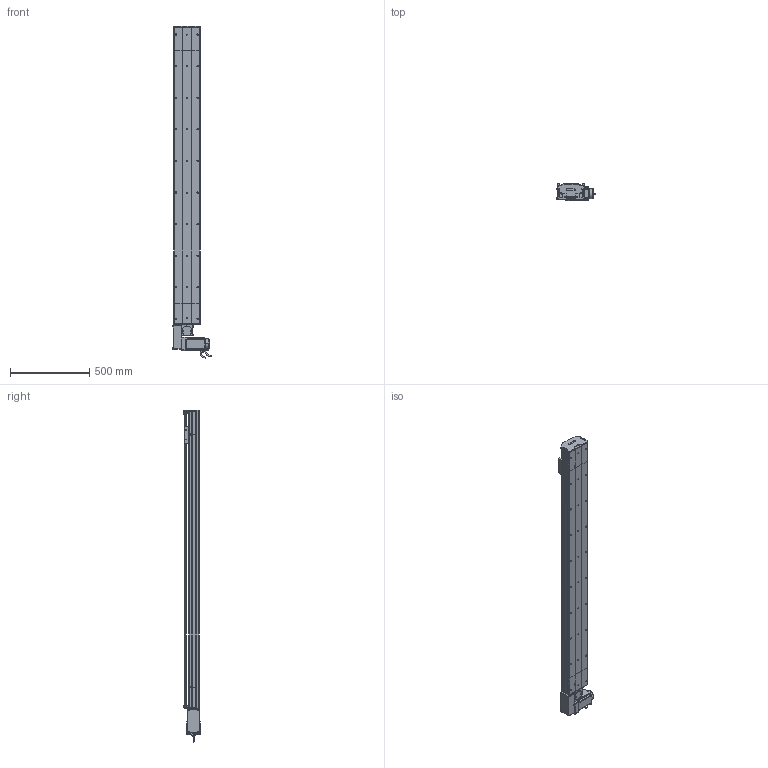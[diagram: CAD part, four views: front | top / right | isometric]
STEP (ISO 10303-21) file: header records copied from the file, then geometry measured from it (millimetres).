
FILE_DESCRIPTION (( 'STEP AP214' ), '1' );
FILE_NAME ('D17 TBN RH S1600.STEP', '2010-06-30T11:01:47', ( 'Christophe Gaillard' ), ( 'SGA' ), 'SwSTEP 2.0', 'SolidWorks 2010', '' );
FILE_SCHEMA (( 'AUTOMOTIVE_DESIGN' ));
Length unit declared in the file: millimetre
Products named in the file (40): plaque de  bout tail D17B_Default; guide D17; couvercle D17B course L1600_Default; vis M5 L5_Default; Chariot D17 TBN; couvercle D17B head_Default; D17 TBN RH S1600; course 1600 D17B_Default; Couroie+ rail D17 Course 1600 ; poulie head_Default; couroie head D17_Default; Moteur motionking 90BLDC125A-640; avant 90BLDC125A-640; plaque de  bout head D17B RH_Default; Arbre+rail head D17B; cache D17_Default; poulie tail_Default; Couroie tail D17B_Default; couvercle D17B_Default; vis M5 L8 90°_Default; vis M5 L12_Default; vis M5 L25_Default; corpl tail D17B_Default; cache arbre D17_Default; Renvoi RH_Default; Tail D17B_Default; tete d''axe poulie D17B; chariot D17 TBN; Head RH D17B_Default; corpl head D17 _Default; corp D17B 1600_Default; corps 90BLDC125A-640; codeur 90BLDC125-640; Conecteur2_Default; vis M5 L16_Default; Conecteur_Default; vis M5 L70_Default; Plaque racord D17_Default; Vis M5 L16-2_Default; Rail D17B
Assembly tree (66 placements, depth 4):
  D17 TBN RH S1600
    chariot D17 TBN
      guide D17  x2
      Chariot D17 TBN
    course 1600 D17B_Default
      couvercle D17B course L1600_Default
      corp D17B 1600_Default
      Couroie+ rail D17 Course 1600 
    Head RH D17B_Default
      Moteur motionking 90BLDC125A-640
        corps 90BLDC125A-640
        codeur 90BLDC125-640
        Conecteur2_Default
        avant 90BLDC125A-640
        Conecteur_Default
      vis M5 L70_Default  x4
      cache arbre D17_Default
      vis M5 L12_Default  x8
      cache D17_Default  x2
      Vis M5 L16-2_Default  x4
      plaque de  bout head D17B RH_Default
      vis M5 L5_Default  x4
      vis M5 L16_Default  x2
      poulie head_Default
      couvercle D17B head_Default
      vis M5 L25_Default  x2
      couroie head D17_Default
      Plaque racord D17_Default
      Arbre+rail head D17B
      Renvoi RH_Default
      corpl head D17 _Default
    Tail D17B_Default
      vis M5 L12_Default  x4
      vis M5 L8 90°_Default  x2
      Rail D17B
      vis M5 L25_Default  x2
      plaque de  bout tail D17B_Default
      corpl tail D17B_Default
      tete d''axe poulie D17B
      poulie tail_Default
      Couroie tail D17B_Default
      couvercle D17B_Default
Bounding box: 245.2 x 105.65 x 2100.95 mm (x, y, z)
Volume: 12075971.1 mm3; surface area: 3451185.9 mm2
Topology: 89 solids, 89 shells, 2567 faces, 6517 edges, 4202 vertices
Faces by surface type: plane 1533, cylinder 737, bspline 136, cone 80, torus 77, sphere 4
Entity records: 82883 total; most frequent: CARTESIAN_POINT 24787, ORIENTED_EDGE 10206, DIRECTION 9652, EDGE_CURVE 5103, VECTOR 3410, LINE 3410, VERTEX_POINT 3346, AXIS2_PLACEMENT_3D 3121
